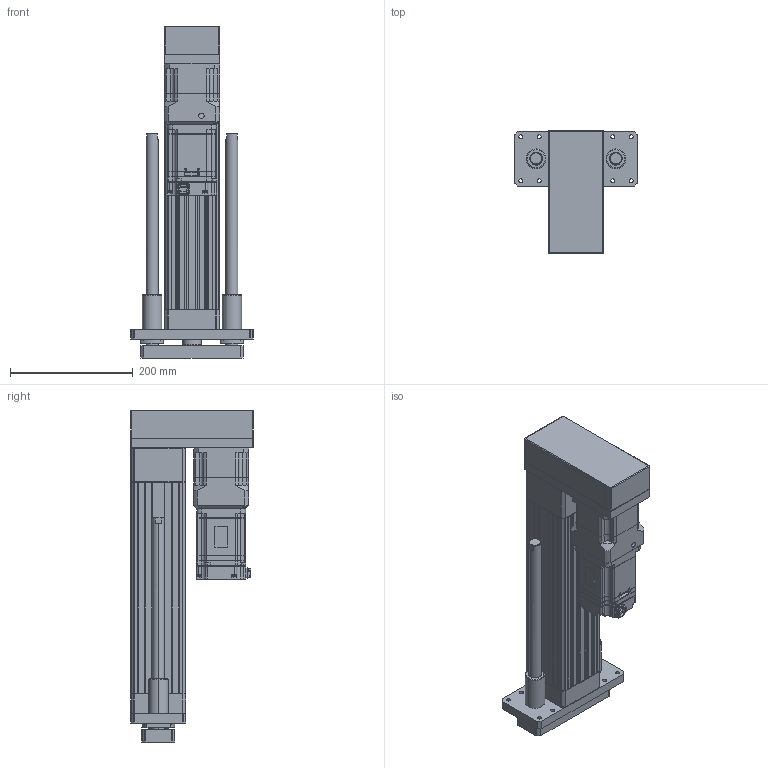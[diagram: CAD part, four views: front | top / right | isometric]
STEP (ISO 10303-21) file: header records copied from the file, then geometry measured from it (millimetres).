
FILE_DESCRIPTION (( 'STEP AP203' ), '1' );
FILE_NAME ('ANS090H-GP200-05(10)(25)-W75G05.STEP', '2019-03-18T03:00:09', ( 'user' ), ( '' ), 'SwSTEP 2.0', 'SolidWorks 2013', '' );
FILE_SCHEMA (( 'CONFIG_CONTROL_DESIGN' ));
Length unit declared in the file: millimetre
Products named in the file (5): ANS090H GP200 VER2; ANS090 ROD ST200-G; SGMJV_08A_A21; AB090-005-S1-P2[YASKAWA SGMJV08A]; ANS090H-GP200-05(10)(25)-W75G05
Assembly tree (4 placements, depth 2):
  ANS090H-GP200-05(10)(25)-W75G05
    ANS090H GP200 VER2
    ANS090 ROD ST200-G
    SGMJV_08A_A21
    AB090-005-S1-P2[YASKAWA SGMJV08A]
Bounding box: 200 x 200 x 542 mm (x, y, z)
Volume: 3688819 mm3; surface area: 743513.2 mm2
Topology: 3 solids, 14 shells, 1545 faces, 4030 edges, 2588 vertices
Faces by surface type: plane 828, cylinder 529, cone 164, bspline 12, sphere 8, torus 4
Entity records: 48188 total; most frequent: CARTESIAN_POINT 9040, DIRECTION 8191, ORIENTED_EDGE 7932, EDGE_CURVE 4010, AXIS2_PLACEMENT_3D 2779, LINE 2633, VECTOR 2633, VERTEX_POINT 2588
